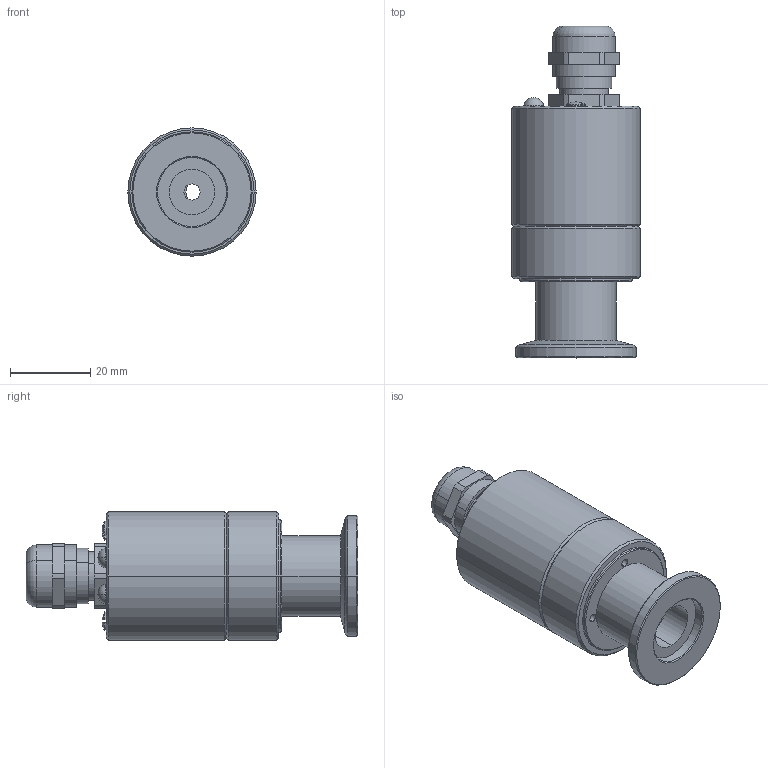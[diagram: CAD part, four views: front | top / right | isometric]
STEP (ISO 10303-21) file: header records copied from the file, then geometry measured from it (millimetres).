
FILE_DESCRIPTION (( 'STEP AP203' ), '1' );
FILE_NAME ('DI2000.STEP', '2013-06-25T13:54:54', ( 'user8' ), ( '' ), 'SwSTEP 2.0', 'SolidWorks 2013', '' );
FILE_SCHEMA (( 'CONFIG_CONTROL_DESIGN' ));
Length unit declared in the file: millimetre
Products named in the file (1): DI2000
Bounding box: 32 x 82.8 x 32 mm (x, y, z)
Surface area: 10486 mm2 (no closed solid volume)
Topology: 0 solids, 8 shells, 115 faces, 286 edges, 186 vertices
Faces by surface type: cylinder 50, plane 29, cone 24, sphere 8, torus 4
Entity records: 3542 total; most frequent: DIRECTION 670, CARTESIAN_POINT 612, ORIENTED_EDGE 522, EDGE_CURVE 286, AXIS2_PLACEMENT_3D 276, VERTEX_POINT 186, CIRCLE 160, EDGE_LOOP 134
